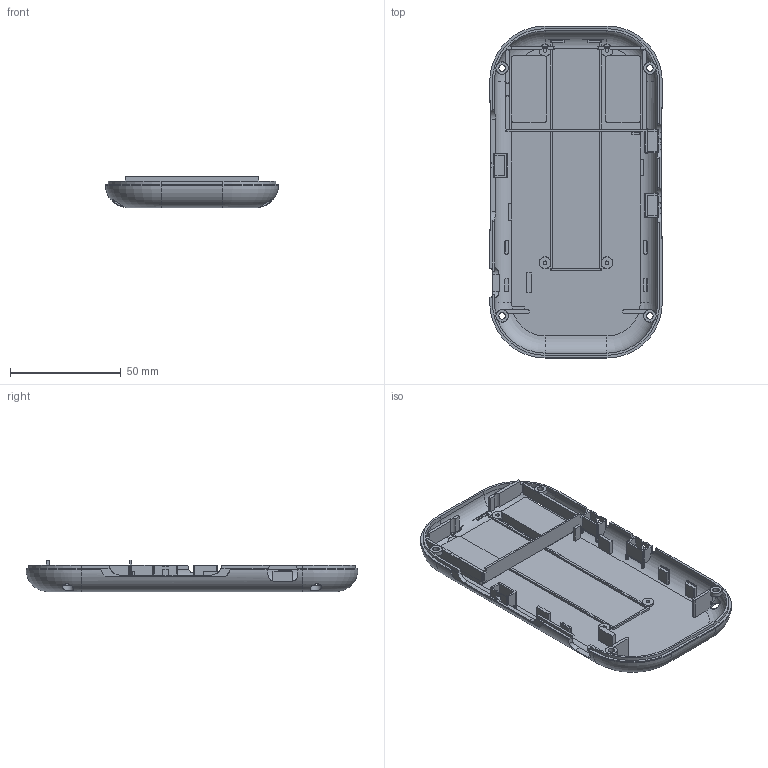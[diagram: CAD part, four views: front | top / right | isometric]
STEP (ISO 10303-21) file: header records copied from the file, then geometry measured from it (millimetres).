
FILE_DESCRIPTION(('Open CASCADE Model'),'2;1');
FILE_NAME('C27_UC1_02_Back_Shell_Chalk_CASTING_MASTER', '2026-09-09T20:28:09',('Author'),('Open CASCADE'), 'Open CASCADE STEP processor 7.9','build123d','Unknown');
FILE_SCHEMA(('AUTOMOTIVE_DESIGN { 1 0 10303 214 1 1 1 1 }'));
Length unit declared in the file: millimetre
Products named in the file (1): C27_UC1_02_Back_Shell_Chalk_CASTING_MASTER
Bounding box: 78 x 150 x 14.15 mm (x, y, z)
Volume: 33263.4 mm3; surface area: 34611.1 mm2
Topology: 1 solids, 1 shells, 1259 faces, 3610 edges, 2388 vertices
Faces by surface type: plane 615, bspline 352, cylinder 274, torus 10, cone 8
Full cylindrical faces by diameter (mm): 1.7 x4, 2.9 x4
Entity records: 103708 total; most frequent: CARTESIAN_POINT 38098, DIRECTION 10020, ORIENTED_EDGE 7220, PCURVE 7220, DEFINITIONAL_REPRESENTATION 7220, LINE 6638, VECTOR 6638, EDGE_CURVE 3610
